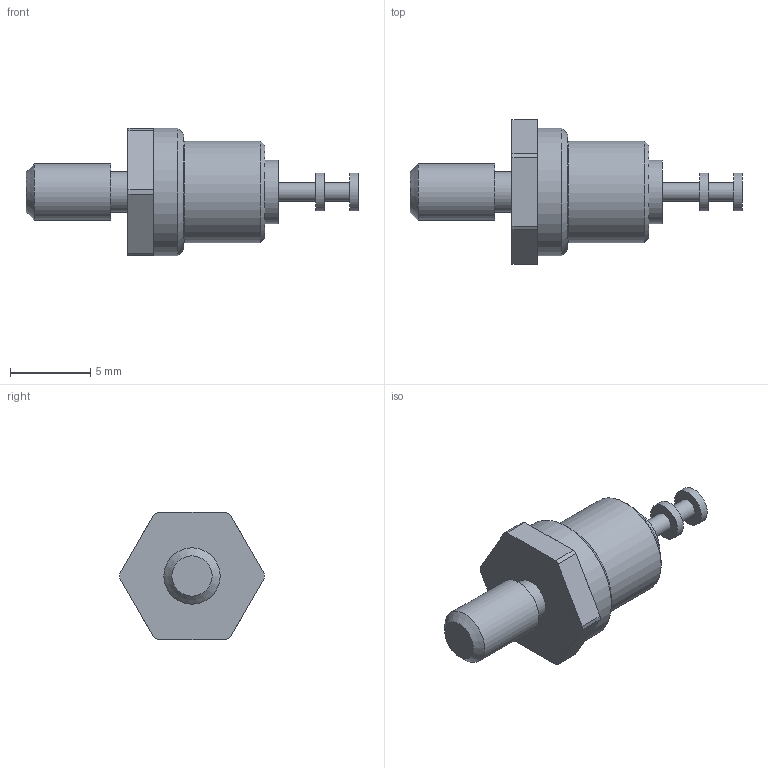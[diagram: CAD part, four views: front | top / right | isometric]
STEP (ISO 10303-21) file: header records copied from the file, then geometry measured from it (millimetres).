
FILE_DESCRIPTION(/* description */ (''),/* implementation_level */ '2;1');
FILE_NAME(/* name */ '\\Snap1\dwgs\Customer 3D Models\570\570-1945-01 Customer model.stp',/* time_stamp */ '2017-01-03T10:22:11+00:00',/* author */ ('paulk'),/* organization */ (''),/* preprocessor_version */ 'ST-DEVELOPER v15.2',/* originating_system */ 'Autodesk Inventor 2014',/* authorisation */ '');
FILE_SCHEMA (('CONFIG_CONTROL_DESIGN'));
Length unit declared in the file: millimetre
Products named in the file (1): 570-1945-01 Customer model
Bounding box: 20.67 x 9 x 7.92 mm (x, y, z)
Volume: 410 mm3; surface area: 412.2 mm2
Topology: 1 solids, 1 shells, 41 faces, 86 edges, 54 vertices
Faces by surface type: plane 21, cylinder 15, cone 5
Full cylindrical faces by diameter (mm): 1.168 x2, 2.362 x2, 2.532 x1, 3.505 x1, 3.968 x1, 6.35 x1, 7.925 x1
Entity records: 1085 total; most frequent: DIRECTION 192, CARTESIAN_POINT 162, ORIENTED_EDGE 138, AXIS2_PLACEMENT_3D 81, EDGE_CURVE 69, EDGE_LOOP 62, VERTEX_POINT 51, STYLED_ITEM 42
